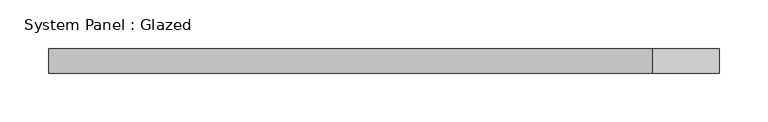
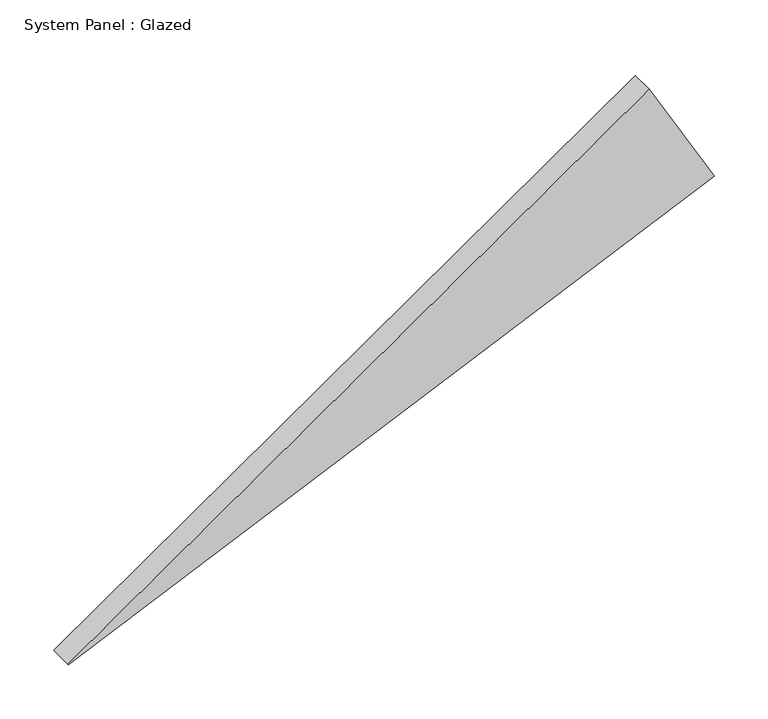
"""IFC4 building model written with IfcOpenShell, lengths in millimetres: plate geometry, System Panel : Glazed."""

from ifc_helpers import new_model, si_unit, frame, origin, place, context, project, spatial, polyline, outline, extrude, source, transform, mapped, element, save


def system_panel_glazed_149e3b02(model_context):
    return source(origin(), model_context, "Body", "SweptSolid", [
        extrude(outline(polyline([(0.7365579, -345.5227634), (0.0, -345.1052386), (310.997521, 345.5227634), (433.5681592, 276.0424384), (0.7365579, -345.5227634)])), frame((0.0, -44.45, 0.0), z_axis=(0.0, 1.0, 0.0), x_axis=(0.0, 0.0, 1.0)), (0.0, 0.0, 1.0), 25.4),
    ])


if __name__ == "__main__":
    model = new_model("IFC4")
    model_context = context("Model", 3, world=origin())
    ifc_project = project(units=[si_unit("LENGTHUNIT", "METRE", prefix="MILLI")], contexts=[model_context])
    site = spatial("IfcSite", under=ifc_project)
    building = spatial("IfcBuilding", under=site)
    placement = place(None, origin())
    system_panel_glazed_shape = system_panel_glazed_149e3b02(model_context)
    element("IfcPlate", 1, ObjectType="System Panel : Glazed", at=placement, inside=building, context=model_context, shape_type="MappedRepresentation", body=[
        mapped(system_panel_glazed_shape, transform((0.0, 0.0, 0.0), x_axis=(1.0, 0.0, 0.0), y_axis=(0.0, 1.0, 0.0), z_axis=(0.0, 0.0, 1.0))),
    ])
    save(model, "model.ifc")
